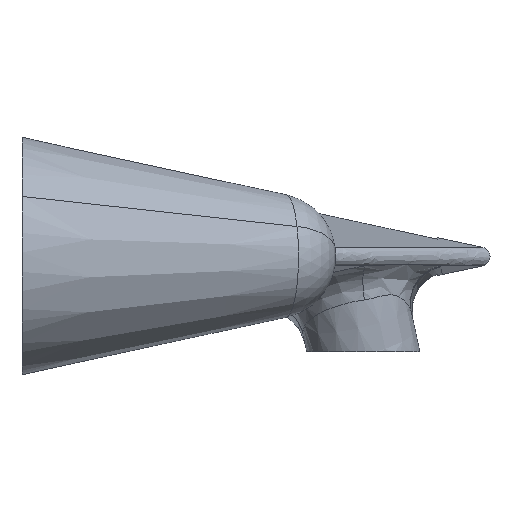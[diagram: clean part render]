
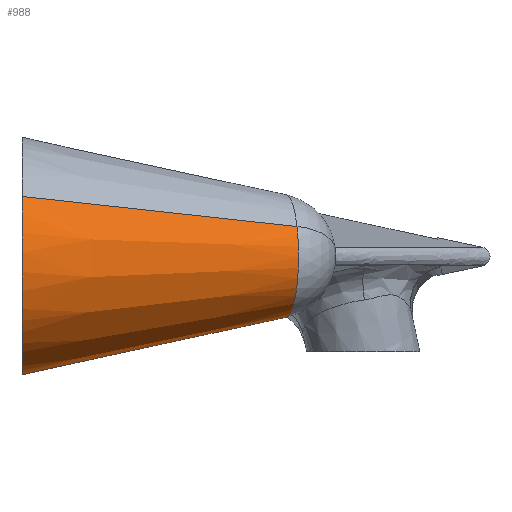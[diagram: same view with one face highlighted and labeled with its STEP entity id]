
A CAD part, top view. The second image highlights one B-rep face of the part: STEP entity #988.
In plain terms, the highlighted conical face has half-angle 12 degrees and reference radius 16.112 mm.
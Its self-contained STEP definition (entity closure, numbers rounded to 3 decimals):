
#938=AXIS2_PLACEMENT_3D('Cone Axis2P3D',#935,#936,#937) ;
#949=AXIS2_PLACEMENT_3D('Circle Axis2P3D',#947,#948,$) ;
#904=CARTESIAN_POINT('Vertex',(-57.452,-8.,77.581)) ;
#908=CARTESIAN_POINT('Control Point',(-57.452,-8.,77.581)) ;
#909=CARTESIAN_POINT('Control Point',(-66.245,-9.426,78.09)) ;
#910=CARTESIAN_POINT('Control Point',(-75.038,-10.902,78.657)) ;
#911=CARTESIAN_POINT('Control Point',(-83.799,-12.405,79.268)) ;
#912=CARTESIAN_POINT('Control Point',(-96.515,-14.622,80.208)) ;
#913=CARTESIAN_POINT('Control Point',(-109.224,-16.879,81.214)) ;
#914=CARTESIAN_POINT('Control Point',(-113.15,-17.58,81.531)) ;
#915=CARTESIAN_POINT('Control Point',(-117.076,-18.283,81.853)) ;
#916=CARTESIAN_POINT('Control Point',(-121.,-18.989,82.18)) ;
#917=CARTESIAN_POINT('Vertex',(-121.,-18.989,82.18)) ;
#935=CARTESIAN_POINT('Axis2P3D Location',(-51.758,0.,91.342)) ;
#940=CARTESIAN_POINT('Line Origine',(-95.375,-11.801,78.53)) ;
#944=CARTESIAN_POINT('Vertex',(-54.698,-7.724,77.512)) ;
#947=CARTESIAN_POINT('Axis2P3D Location',(-51.758,0.,91.342)) ;
#951=CARTESIAN_POINT('Vertex',(-48.819,7.724,105.173)) ;
#954=CARTESIAN_POINT('Line Origine',(-86.393,11.801,120.788)) ;
#958=CARTESIAN_POINT('Vertex',(-121.,15.555,135.169)) ;
#962=CARTESIAN_POINT('Control Point',(-121.,15.555,135.169)) ;
#963=CARTESIAN_POINT('Control Point',(-121.,12.009,137.257)) ;
#964=CARTESIAN_POINT('Control Point',(-121.,8.109,138.762)) ;
#965=CARTESIAN_POINT('Control Point',(-121.,3.979,139.591)) ;
#966=CARTESIAN_POINT('Control Point',(-121.,-2.394,139.756)) ;
#967=CARTESIAN_POINT('Control Point',(-121.,-8.532,138.323)) ;
#968=CARTESIAN_POINT('Control Point',(-121.,-10.585,137.648)) ;
#969=CARTESIAN_POINT('Control Point',(-121.,-16.63,135.055)) ;
#970=CARTESIAN_POINT('Control Point',(-121.,-21.839,130.947)) ;
#971=CARTESIAN_POINT('Control Point',(-121.,-24.804,127.605)) ;
#972=CARTESIAN_POINT('Control Point',(-121.,-29.638,119.789)) ;
#973=CARTESIAN_POINT('Control Point',(-121.,-31.529,110.835)) ;
#974=CARTESIAN_POINT('Control Point',(-121.,-31.661,106.083)) ;
#975=CARTESIAN_POINT('Control Point',(-121.,-30.388,97.699)) ;
#976=CARTESIAN_POINT('Control Point',(-121.,-26.594,90.208)) ;
#977=CARTESIAN_POINT('Control Point',(-121.,-24.443,87.15)) ;
#978=CARTESIAN_POINT('Control Point',(-121.,-21.882,84.452)) ;
#979=CARTESIAN_POINT('Control Point',(-121.,-18.989,82.18)) ;
#936=DIRECTION('Axis2P3D Direction',(-0.978,0.,0.208)) ;
#937=DIRECTION('Axis2P3D XDirection',(-0.182,-0.479,-0.858)) ;
#941=DIRECTION('Vector Direction',(-0.995,-0.1,0.025)) ;
#948=DIRECTION('Axis2P3D Direction',(0.978,0.,-0.208)) ;
#955=DIRECTION('Vector Direction',(-0.919,0.1,0.382)) ;
#942=VECTOR('Line Direction',#941,1.) ;
#956=VECTOR('Line Direction',#955,1.) ;
#982=ORIENTED_EDGE('',*,*,#919,.F.) ;
#983=ORIENTED_EDGE('',*,*,#946,.F.) ;
#984=ORIENTED_EDGE('',*,*,#953,.T.) ;
#985=ORIENTED_EDGE('',*,*,#960,.T.) ;
#986=ORIENTED_EDGE('',*,*,#980,.T.) ;
#988=ADVANCED_FACE('Corps principal',(#987),#939,.T.) ;
#907=B_SPLINE_CURVE_WITH_KNOTS('',5,(#908,#909,#910,#911,#912,#913,#914,#915,#916),.UNSPECIFIED.,.F.,.U.,(6,3,6),(0.,63.293,91.607),.UNSPECIFIED.) ;
#961=B_SPLINE_CURVE_WITH_KNOTS('',5,(#962,#963,#964,#965,#966,#967,#968,#969,#970,#971,#972,#973,#974,#975,#976,#977,#978,#979),.UNSPECIFIED.,.F.,.U.,(6,3,3,3,3,6),(125.564,151.432,164.913,192.558,222.338,246.13),.UNSPECIFIED.) ;
#950=CIRCLE('generated circle',#949,16.112) ;
#939=CONICAL_SURFACE('Cone',#938,16.112,0.209) ;
#919=EDGE_CURVE('',#905,#918,#907,.T.) ;
#946=EDGE_CURVE('',#945,#905,#943,.T.) ;
#953=EDGE_CURVE('',#945,#952,#950,.F.) ;
#960=EDGE_CURVE('',#952,#959,#957,.T.) ;
#980=EDGE_CURVE('',#959,#918,#961,.T.) ;
#981=EDGE_LOOP('',(#982,#983,#984,#985,#986)) ;
#987=FACE_OUTER_BOUND('',#981,.T.) ;
#943=LINE('Line',#940,#942) ;
#957=LINE('Line',#954,#956) ;
#905=VERTEX_POINT('',#904) ;
#918=VERTEX_POINT('',#917) ;
#945=VERTEX_POINT('',#944) ;
#952=VERTEX_POINT('',#951) ;
#959=VERTEX_POINT('',#958) ;
